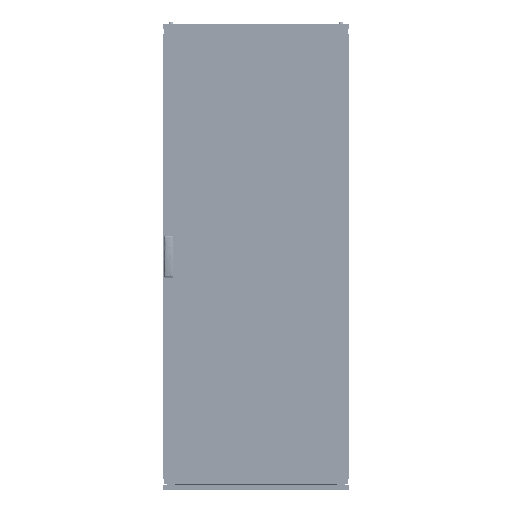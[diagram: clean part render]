
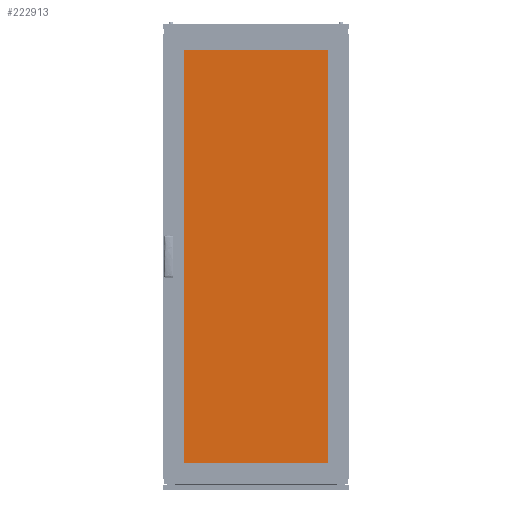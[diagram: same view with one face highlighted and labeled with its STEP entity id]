
A CAD part, top view. The second image highlights one B-rep face of the part: STEP entity #222913.
In plain terms, the highlighted planar face has unit normal (0, 0, 1).
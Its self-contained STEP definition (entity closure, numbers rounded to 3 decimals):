
#1312 = VERTEX_POINT ( 'NONE', #106198 ) ;
#10741 = LINE ( 'NONE', #161241, #94418 ) ;
#11995 = VECTOR ( 'NONE', #118883, 1000. ) ;
#20735 = VERTEX_POINT ( 'NONE', #204731 ) ;
#36395 = ORIENTED_EDGE ( 'NONE', *, *, #100315, .T. ) ;
#44157 = VERTEX_POINT ( 'NONE', #186548 ) ;
#45456 = LINE ( 'NONE', #169501, #11995 ) ;
#54361 = EDGE_LOOP ( 'NONE', ( #89947, #221272, #36395, #65224 ) ) ;
#65224 = ORIENTED_EDGE ( 'NONE', *, *, #223425, .T. ) ;
#75578 = LINE ( 'NONE', #204444, #200665 ) ;
#85426 = DIRECTION ( 'NONE',  ( 0., 1., 0. ) ) ;
#89947 = ORIENTED_EDGE ( 'NONE', *, *, #109352, .T. ) ;
#89972 = CARTESIAN_POINT ( 'NONE',  ( -330., 910., 5. ) ) ;
#92732 = CARTESIAN_POINT ( 'NONE',  ( 0., 0., 5. ) ) ;
#94418 = VECTOR ( 'NONE', #85426, 1000. ) ;
#95146 = EDGE_CURVE ( 'NONE', #44157, #101884, #199619, .T. ) ;
#100315 = EDGE_CURVE ( 'NONE', #101884, #20735, #75578, .T. ) ;
#101884 = VERTEX_POINT ( 'NONE', #213105 ) ;
#103306 = VECTOR ( 'NONE', #163449, 1000. ) ;
#106198 = CARTESIAN_POINT ( 'NONE',  ( 330., -910., 5. ) ) ;
#109352 = EDGE_CURVE ( 'NONE', #1312, #44157, #10741, .T. ) ;
#118883 = DIRECTION ( 'NONE',  ( 1., 0., 0. ) ) ;
#128908 = PLANE ( 'NONE',  #208035 ) ;
#148152 = DIRECTION ( 'NONE',  ( -1., 0., 0. ) ) ;
#149101 = DIRECTION ( 'NONE',  ( 0., -1., 0. ) ) ;
#161241 = CARTESIAN_POINT ( 'NONE',  ( 330., -910., 5. ) ) ;
#163449 = DIRECTION ( 'NONE',  ( -1., 0., 0. ) ) ;
#169501 = CARTESIAN_POINT ( 'NONE',  ( -330., -910., 5. ) ) ;
#185511 = FACE_OUTER_BOUND ( 'NONE', #54361, .T. ) ;
#186548 = CARTESIAN_POINT ( 'NONE',  ( 330., 910., 5. ) ) ;
#199619 = LINE ( 'NONE', #89972, #103306 ) ;
#200665 = VECTOR ( 'NONE', #149101, 1000. ) ;
#204444 = CARTESIAN_POINT ( 'NONE',  ( -330., -910., 5. ) ) ;
#204731 = CARTESIAN_POINT ( 'NONE',  ( -330., -910., 5. ) ) ;
#208035 = AXIS2_PLACEMENT_3D ( 'NONE', #92732, #237352, #148152 ) ;
#213105 = CARTESIAN_POINT ( 'NONE',  ( -330., 910., 5. ) ) ;
#221272 = ORIENTED_EDGE ( 'NONE', *, *, #95146, .T. ) ;
#222913 = ADVANCED_FACE ( 'NONE', ( #185511 ), #128908, .F. ) ;
#223425 = EDGE_CURVE ( 'NONE', #20735, #1312, #45456, .T. ) ;
#237352 = DIRECTION ( 'NONE',  ( 0., 0., -1. ) ) ;
